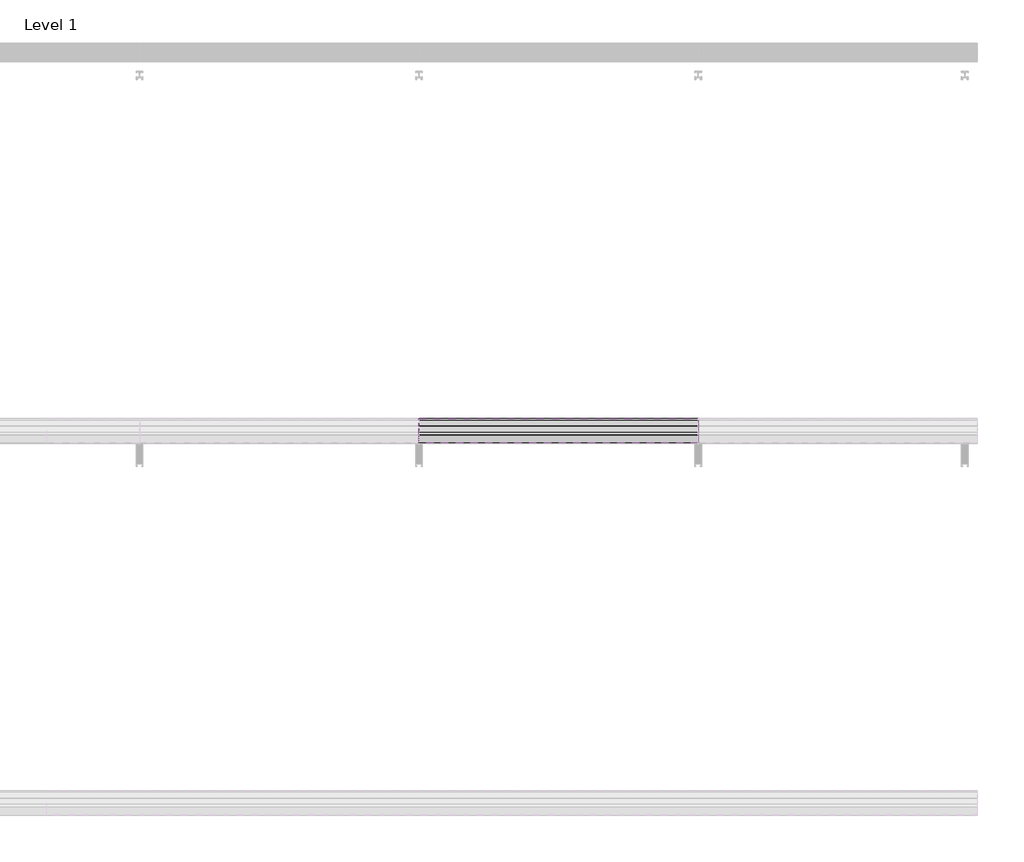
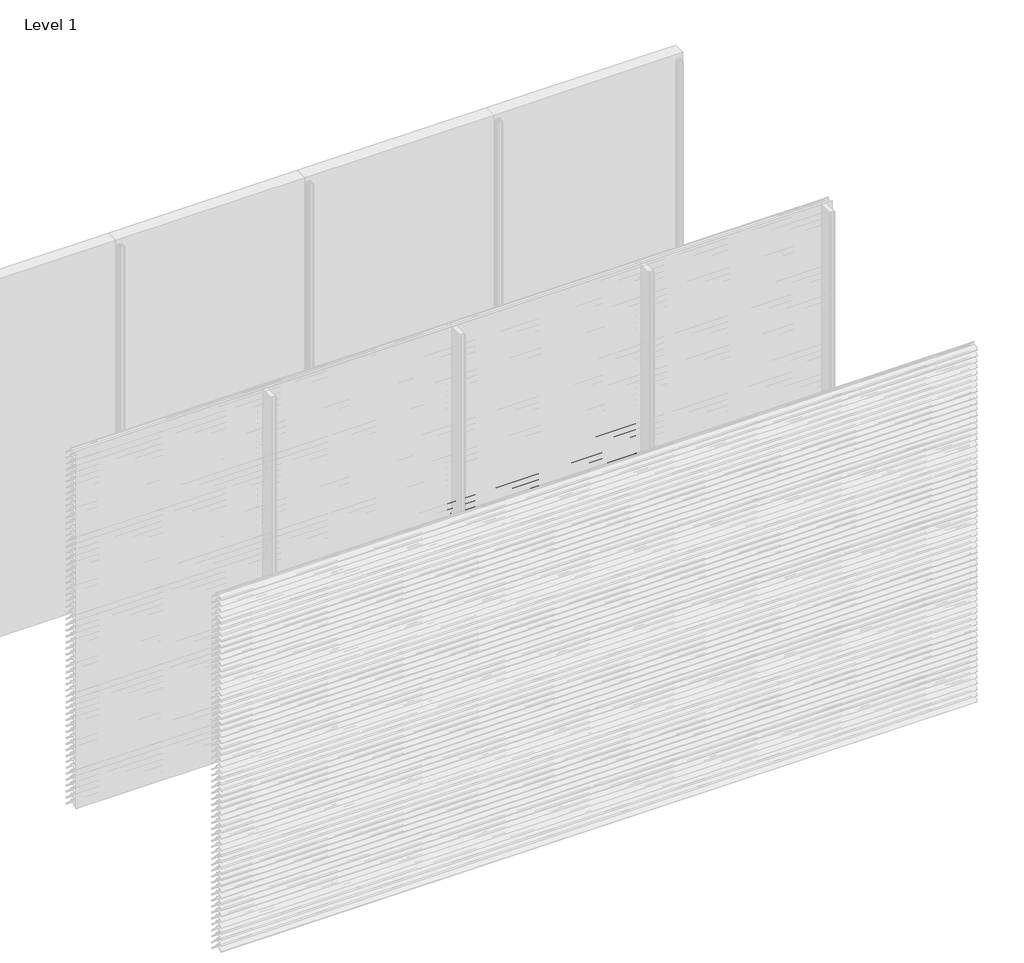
# One storey, part 32 of 173: 18 proxies.
"""IFC4 building model written with IfcOpenShell, lengths in millimetres."""

from ifc_helpers import new_model, si_unit, point, frame, frame_2d, origin, place, context, project, spatial, polyline, circle_curve, trimmed, segment, composite_curve, outline, extrude, element, save

model = new_model("IFC4")

# Units and contexts
model_context = context("Model", 3, world=origin())
ifc_project = project(units=[si_unit("LENGTHUNIT", "METRE", prefix="MILLI")], contexts=[model_context])

# Site, building, storey
site = spatial("IfcSite", under=ifc_project)
building = spatial("IfcBuilding", under=site)
storey = spatial("IfcBuildingStorey", under=building, Name="Level 1", Elevation=0.0)

# Proxies
placement = place(None, origin())
element("IfcBuildingElementProxy", 1, Name="Wall Sweeps", at=placement, inside=storey, context=model_context, shape_type="SweptSolid", body=[
    extrude(outline(composite_curve([segment(polyline([(-47998.0, 1609.1474905), (-47998.0, 1611.6227417)]), True, "CONTINUOUS"), segment(trimmed(circle_curve(frame_2d((-47951.2682172, 1566.2200208)), 65.1557103), [point((-47998.0, 1611.6227417))], [point((-47954.4014323, 1631.3003524))], False, "CARTESIAN"), True, "CONTINUOUS"), segment(polyline([(-47954.4014323, 1631.3003524), (-47934.8315836, 1631.3003524)]), True, "CONTINUOUS"), segment(trimmed(circle_curve(frame_2d((-47732.7329489, 1778.5533172)), 250.0545817), [point((-47934.8315836, 1631.3003524))], [point((-47941.4452143, 1640.8344583))], False, "CARTESIAN"), True, "CONTINUOUS"), segment(trimmed(circle_curve(frame_2d((-47953.2981792, 1635.1737835)), 13.1352966), [point((-47941.4452143, 1640.8344583))], [point((-47953.8171475, 1648.298824))], True, "CARTESIAN"), True, "CONTINUOUS"), segment(polyline([(-47953.8171475, 1648.298824), (-47953.8171475, 1650.0)]), True, "CONTINUOUS"), segment(trimmed(circle_curve(frame_2d((-47953.2981792, 1635.1737835)), 14.8352966), [point((-47953.8171475, 1650.0))], [point((-47939.9637661, 1641.6760487))], False, "CARTESIAN"), True, "CONTINUOUS"), segment(trimmed(circle_curve(frame_2d((-47732.7329489, 1778.5533172)), 248.3545817), [point((-47939.9637661, 1641.6760487))], [point((-47873.8787895, 1574.2059416))], True, "CARTESIAN"), True, "CONTINUOUS"), segment(trimmed(circle_curve(frame_2d((-47883.8147537, 1561.6649442)), 16.0), [point((-47873.8787895, 1574.2059416))], [point((-47867.8648347, 1560.4))], False, "CARTESIAN"), True, "CONTINUOUS"), segment(polyline([(-47867.8648347, 1560.4), (-47869.6712069, 1560.4)]), True, "CONTINUOUS"), segment(trimmed(circle_curve(frame_2d((-47883.8147537, 1561.6649442)), 14.2), [point((-47869.6712069, 1560.4))], [point((-47874.9518628, 1572.7594998))], True, "CARTESIAN"), True, "CONTINUOUS"), segment(trimmed(circle_curve(frame_2d((-47732.7329489, 1778.5533172)), 250.1545817), [point((-47874.9518628, 1572.7594998))], [point((-47933.7064024, 1629.6003524))], False, "CARTESIAN"), True, "CONTINUOUS"), segment(polyline([(-47933.7064024, 1629.6003524), (-47954.3602632, 1629.6003524)]), True, "CONTINUOUS"), segment(trimmed(circle_curve(frame_2d((-47951.2682172, 1566.2200208)), 63.4557103), [point((-47954.3602632, 1629.6003524))], [point((-47998.0, 1609.1474905))], True, "CARTESIAN"), True, "CONTINUOUS")], self_intersect=False)), frame((3000.0, 0.0, 0.0), z_axis=(1.0, 0.0, 0.0), x_axis=(0.0, 1.0, 0.0)), (0.0, 0.0, 1.0), 1500.0),
])
element("IfcBuildingElementProxy", 2, Name="Wall Sweeps", at=placement, inside=storey, context=model_context, shape_type="SweptSolid", body=[
    extrude(outline(composite_curve([segment(polyline([(-47998.0, 1559.1474905), (-47998.0, 1561.6227417)]), True, "CONTINUOUS"), segment(trimmed(circle_curve(frame_2d((-47951.2682172, 1516.2200208)), 65.1557103), [point((-47998.0, 1561.6227417))], [point((-47954.4014323, 1581.3003524))], False, "CARTESIAN"), True, "CONTINUOUS"), segment(polyline([(-47954.4014323, 1581.3003524), (-47934.8315836, 1581.3003524)]), True, "CONTINUOUS"), segment(trimmed(circle_curve(frame_2d((-47732.7329489, 1728.5533172)), 250.0545817), [point((-47934.8315836, 1581.3003524))], [point((-47941.4452143, 1590.8344583))], False, "CARTESIAN"), True, "CONTINUOUS"), segment(trimmed(circle_curve(frame_2d((-47953.2981792, 1585.1737835)), 13.1352966), [point((-47941.4452143, 1590.8344583))], [point((-47953.8171475, 1598.298824))], True, "CARTESIAN"), True, "CONTINUOUS"), segment(polyline([(-47953.8171475, 1598.298824), (-47953.8171475, 1600.0)]), True, "CONTINUOUS"), segment(trimmed(circle_curve(frame_2d((-47953.2981792, 1585.1737835)), 14.8352966), [point((-47953.8171475, 1600.0))], [point((-47939.9637661, 1591.6760487))], False, "CARTESIAN"), True, "CONTINUOUS"), segment(trimmed(circle_curve(frame_2d((-47732.7329489, 1728.5533172)), 248.3545817), [point((-47939.9637661, 1591.6760487))], [point((-47873.8787895, 1524.2059416))], True, "CARTESIAN"), True, "CONTINUOUS"), segment(trimmed(circle_curve(frame_2d((-47883.8147537, 1511.6649442)), 16.0), [point((-47873.8787895, 1524.2059416))], [point((-47867.8648347, 1510.4))], False, "CARTESIAN"), True, "CONTINUOUS"), segment(polyline([(-47867.8648347, 1510.4), (-47869.6712069, 1510.4)]), True, "CONTINUOUS"), segment(trimmed(circle_curve(frame_2d((-47883.8147537, 1511.6649442)), 14.2), [point((-47869.6712069, 1510.4))], [point((-47874.9518628, 1522.7594998))], True, "CARTESIAN"), True, "CONTINUOUS"), segment(trimmed(circle_curve(frame_2d((-47732.7329489, 1728.5533172)), 250.1545817), [point((-47874.9518628, 1522.7594998))], [point((-47933.7064024, 1579.6003524))], False, "CARTESIAN"), True, "CONTINUOUS"), segment(polyline([(-47933.7064024, 1579.6003524), (-47954.3602632, 1579.6003524)]), True, "CONTINUOUS"), segment(trimmed(circle_curve(frame_2d((-47951.2682172, 1516.2200208)), 63.4557103), [point((-47954.3602632, 1579.6003524))], [point((-47998.0, 1559.1474905))], True, "CARTESIAN"), True, "CONTINUOUS")], self_intersect=False)), frame((3000.0, 0.0, 0.0), z_axis=(1.0, 0.0, 0.0), x_axis=(0.0, 1.0, 0.0)), (0.0, 0.0, 1.0), 1500.0),
])
element("IfcBuildingElementProxy", 3, Name="Wall Sweeps", at=placement, inside=storey, context=model_context, shape_type="SweptSolid", body=[
    extrude(outline(composite_curve([segment(polyline([(-47998.0, 1509.1474905), (-47998.0, 1511.6227417)]), True, "CONTINUOUS"), segment(trimmed(circle_curve(frame_2d((-47951.2682172, 1466.2200208)), 65.1557103), [point((-47998.0, 1511.6227417))], [point((-47954.4014323, 1531.3003524))], False, "CARTESIAN"), True, "CONTINUOUS"), segment(polyline([(-47954.4014323, 1531.3003524), (-47934.8315836, 1531.3003524)]), True, "CONTINUOUS"), segment(trimmed(circle_curve(frame_2d((-47732.7329489, 1678.5533172)), 250.0545817), [point((-47934.8315836, 1531.3003524))], [point((-47941.4452143, 1540.8344583))], False, "CARTESIAN"), True, "CONTINUOUS"), segment(trimmed(circle_curve(frame_2d((-47953.2981792, 1535.1737835)), 13.1352966), [point((-47941.4452143, 1540.8344583))], [point((-47953.8171475, 1548.298824))], True, "CARTESIAN"), True, "CONTINUOUS"), segment(polyline([(-47953.8171475, 1548.298824), (-47953.8171475, 1550.0)]), True, "CONTINUOUS"), segment(trimmed(circle_curve(frame_2d((-47953.2981792, 1535.1737835)), 14.8352966), [point((-47953.8171475, 1550.0))], [point((-47939.9637661, 1541.6760487))], False, "CARTESIAN"), True, "CONTINUOUS"), segment(trimmed(circle_curve(frame_2d((-47732.7329489, 1678.5533172)), 248.3545817), [point((-47939.9637661, 1541.6760487))], [point((-47873.8787895, 1474.2059416))], True, "CARTESIAN"), True, "CONTINUOUS"), segment(trimmed(circle_curve(frame_2d((-47883.8147537, 1461.6649442)), 16.0), [point((-47873.8787895, 1474.2059416))], [point((-47867.8648347, 1460.4))], False, "CARTESIAN"), True, "CONTINUOUS"), segment(polyline([(-47867.8648347, 1460.4), (-47869.6712069, 1460.4)]), True, "CONTINUOUS"), segment(trimmed(circle_curve(frame_2d((-47883.8147537, 1461.6649442)), 14.2), [point((-47869.6712069, 1460.4))], [point((-47874.9518628, 1472.7594998))], True, "CARTESIAN"), True, "CONTINUOUS"), segment(trimmed(circle_curve(frame_2d((-47732.7329489, 1678.5533172)), 250.1545817), [point((-47874.9518628, 1472.7594998))], [point((-47933.7064024, 1529.6003524))], False, "CARTESIAN"), True, "CONTINUOUS"), segment(polyline([(-47933.7064024, 1529.6003524), (-47954.3602632, 1529.6003524)]), True, "CONTINUOUS"), segment(trimmed(circle_curve(frame_2d((-47951.2682172, 1466.2200208)), 63.4557103), [point((-47954.3602632, 1529.6003524))], [point((-47998.0, 1509.1474905))], True, "CARTESIAN"), True, "CONTINUOUS")], self_intersect=False)), frame((3000.0, 0.0, 0.0), z_axis=(1.0, 0.0, 0.0), x_axis=(0.0, 1.0, 0.0)), (0.0, 0.0, 1.0), 1500.0),
])
element("IfcBuildingElementProxy", 4, Name="Wall Sweeps", at=placement, inside=storey, context=model_context, shape_type="SweptSolid", body=[
    extrude(outline(composite_curve([segment(polyline([(-47998.0, 1459.1474905), (-47998.0, 1461.6227417)]), True, "CONTINUOUS"), segment(trimmed(circle_curve(frame_2d((-47951.2682172, 1416.2200208)), 65.1557103), [point((-47998.0, 1461.6227417))], [point((-47954.4014323, 1481.3003524))], False, "CARTESIAN"), True, "CONTINUOUS"), segment(polyline([(-47954.4014323, 1481.3003524), (-47934.8315836, 1481.3003524)]), True, "CONTINUOUS"), segment(trimmed(circle_curve(frame_2d((-47732.7329489, 1628.5533172)), 250.0545817), [point((-47934.8315836, 1481.3003524))], [point((-47941.4452143, 1490.8344583))], False, "CARTESIAN"), True, "CONTINUOUS"), segment(trimmed(circle_curve(frame_2d((-47953.2981792, 1485.1737835)), 13.1352966), [point((-47941.4452143, 1490.8344583))], [point((-47953.8171475, 1498.298824))], True, "CARTESIAN"), True, "CONTINUOUS"), segment(polyline([(-47953.8171475, 1498.298824), (-47953.8171475, 1500.0)]), True, "CONTINUOUS"), segment(trimmed(circle_curve(frame_2d((-47953.2981792, 1485.1737835)), 14.8352966), [point((-47953.8171475, 1500.0))], [point((-47939.9637661, 1491.6760487))], False, "CARTESIAN"), True, "CONTINUOUS"), segment(trimmed(circle_curve(frame_2d((-47732.7329489, 1628.5533172)), 248.3545817), [point((-47939.9637661, 1491.6760487))], [point((-47873.8787895, 1424.2059416))], True, "CARTESIAN"), True, "CONTINUOUS"), segment(trimmed(circle_curve(frame_2d((-47883.8147537, 1411.6649442)), 16.0), [point((-47873.8787895, 1424.2059416))], [point((-47867.8648347, 1410.4))], False, "CARTESIAN"), True, "CONTINUOUS"), segment(polyline([(-47867.8648347, 1410.4), (-47869.6712069, 1410.4)]), True, "CONTINUOUS"), segment(trimmed(circle_curve(frame_2d((-47883.8147537, 1411.6649442)), 14.2), [point((-47869.6712069, 1410.4))], [point((-47874.9518628, 1422.7594998))], True, "CARTESIAN"), True, "CONTINUOUS"), segment(trimmed(circle_curve(frame_2d((-47732.7329489, 1628.5533172)), 250.1545817), [point((-47874.9518628, 1422.7594998))], [point((-47933.7064024, 1479.6003524))], False, "CARTESIAN"), True, "CONTINUOUS"), segment(polyline([(-47933.7064024, 1479.6003524), (-47954.3602632, 1479.6003524)]), True, "CONTINUOUS"), segment(trimmed(circle_curve(frame_2d((-47951.2682172, 1416.2200208)), 63.4557103), [point((-47954.3602632, 1479.6003524))], [point((-47998.0, 1459.1474905))], True, "CARTESIAN"), True, "CONTINUOUS")], self_intersect=False)), frame((3000.0, 0.0, 0.0), z_axis=(1.0, 0.0, 0.0), x_axis=(0.0, 1.0, 0.0)), (0.0, 0.0, 1.0), 1500.0),
])
element("IfcBuildingElementProxy", 5, Name="Wall Sweeps", at=placement, inside=storey, context=model_context, shape_type="SweptSolid", body=[
    extrude(outline(composite_curve([segment(polyline([(-47998.0, 1409.1474905), (-47998.0, 1411.6227417)]), True, "CONTINUOUS"), segment(trimmed(circle_curve(frame_2d((-47951.2682172, 1366.2200208)), 65.1557103), [point((-47998.0, 1411.6227417))], [point((-47954.4014323, 1431.3003524))], False, "CARTESIAN"), True, "CONTINUOUS"), segment(polyline([(-47954.4014323, 1431.3003524), (-47934.8315836, 1431.3003524)]), True, "CONTINUOUS"), segment(trimmed(circle_curve(frame_2d((-47732.7329489, 1578.5533172)), 250.0545817), [point((-47934.8315836, 1431.3003524))], [point((-47941.4452143, 1440.8344583))], False, "CARTESIAN"), True, "CONTINUOUS"), segment(trimmed(circle_curve(frame_2d((-47953.2981792, 1435.1737835)), 13.1352966), [point((-47941.4452143, 1440.8344583))], [point((-47953.8171475, 1448.298824))], True, "CARTESIAN"), True, "CONTINUOUS"), segment(polyline([(-47953.8171475, 1448.298824), (-47953.8171475, 1450.0)]), True, "CONTINUOUS"), segment(trimmed(circle_curve(frame_2d((-47953.2981792, 1435.1737835)), 14.8352966), [point((-47953.8171475, 1450.0))], [point((-47939.9637661, 1441.6760487))], False, "CARTESIAN"), True, "CONTINUOUS"), segment(trimmed(circle_curve(frame_2d((-47732.7329489, 1578.5533172)), 248.3545817), [point((-47939.9637661, 1441.6760487))], [point((-47873.8787895, 1374.2059416))], True, "CARTESIAN"), True, "CONTINUOUS"), segment(trimmed(circle_curve(frame_2d((-47883.8147537, 1361.6649442)), 16.0), [point((-47873.8787895, 1374.2059416))], [point((-47867.8648347, 1360.4))], False, "CARTESIAN"), True, "CONTINUOUS"), segment(polyline([(-47867.8648347, 1360.4), (-47869.6712069, 1360.4)]), True, "CONTINUOUS"), segment(trimmed(circle_curve(frame_2d((-47883.8147537, 1361.6649442)), 14.2), [point((-47869.6712069, 1360.4))], [point((-47874.9518628, 1372.7594998))], True, "CARTESIAN"), True, "CONTINUOUS"), segment(trimmed(circle_curve(frame_2d((-47732.7329489, 1578.5533172)), 250.1545817), [point((-47874.9518628, 1372.7594998))], [point((-47933.7064024, 1429.6003524))], False, "CARTESIAN"), True, "CONTINUOUS"), segment(polyline([(-47933.7064024, 1429.6003524), (-47954.3602632, 1429.6003524)]), True, "CONTINUOUS"), segment(trimmed(circle_curve(frame_2d((-47951.2682172, 1366.2200208)), 63.4557103), [point((-47954.3602632, 1429.6003524))], [point((-47998.0, 1409.1474905))], True, "CARTESIAN"), True, "CONTINUOUS")], self_intersect=False)), frame((3000.0, 0.0, 0.0), z_axis=(1.0, 0.0, 0.0), x_axis=(0.0, 1.0, 0.0)), (0.0, 0.0, 1.0), 1500.0),
])
element("IfcBuildingElementProxy", 6, Name="Wall Sweeps", at=placement, inside=storey, context=model_context, shape_type="SweptSolid", body=[
    extrude(outline(composite_curve([segment(polyline([(-47998.0, 1359.1474905), (-47998.0, 1361.6227417)]), True, "CONTINUOUS"), segment(trimmed(circle_curve(frame_2d((-47951.2682172, 1316.2200208)), 65.1557103), [point((-47998.0, 1361.6227417))], [point((-47954.4014323, 1381.3003524))], False, "CARTESIAN"), True, "CONTINUOUS"), segment(polyline([(-47954.4014323, 1381.3003524), (-47934.8315836, 1381.3003524)]), True, "CONTINUOUS"), segment(trimmed(circle_curve(frame_2d((-47732.7329489, 1528.5533172)), 250.0545817), [point((-47934.8315836, 1381.3003524))], [point((-47941.4452143, 1390.8344583))], False, "CARTESIAN"), True, "CONTINUOUS"), segment(trimmed(circle_curve(frame_2d((-47953.2981792, 1385.1737835)), 13.1352966), [point((-47941.4452143, 1390.8344583))], [point((-47953.8171475, 1398.298824))], True, "CARTESIAN"), True, "CONTINUOUS"), segment(polyline([(-47953.8171475, 1398.298824), (-47953.8171475, 1400.0)]), True, "CONTINUOUS"), segment(trimmed(circle_curve(frame_2d((-47953.2981792, 1385.1737835)), 14.8352966), [point((-47953.8171475, 1400.0))], [point((-47939.9637661, 1391.6760487))], False, "CARTESIAN"), True, "CONTINUOUS"), segment(trimmed(circle_curve(frame_2d((-47732.7329489, 1528.5533172)), 248.3545817), [point((-47939.9637661, 1391.6760487))], [point((-47873.8787895, 1324.2059416))], True, "CARTESIAN"), True, "CONTINUOUS"), segment(trimmed(circle_curve(frame_2d((-47883.8147537, 1311.6649442)), 16.0), [point((-47873.8787895, 1324.2059416))], [point((-47867.8648347, 1310.4))], False, "CARTESIAN"), True, "CONTINUOUS"), segment(polyline([(-47867.8648347, 1310.4), (-47869.6712069, 1310.4)]), True, "CONTINUOUS"), segment(trimmed(circle_curve(frame_2d((-47883.8147537, 1311.6649442)), 14.2), [point((-47869.6712069, 1310.4))], [point((-47874.9518628, 1322.7594998))], True, "CARTESIAN"), True, "CONTINUOUS"), segment(trimmed(circle_curve(frame_2d((-47732.7329489, 1528.5533172)), 250.1545817), [point((-47874.9518628, 1322.7594998))], [point((-47933.7064024, 1379.6003524))], False, "CARTESIAN"), True, "CONTINUOUS"), segment(polyline([(-47933.7064024, 1379.6003524), (-47954.3602632, 1379.6003524)]), True, "CONTINUOUS"), segment(trimmed(circle_curve(frame_2d((-47951.2682172, 1316.2200208)), 63.4557103), [point((-47954.3602632, 1379.6003524))], [point((-47998.0, 1359.1474905))], True, "CARTESIAN"), True, "CONTINUOUS")], self_intersect=False)), frame((3000.0, 0.0, 0.0), z_axis=(1.0, 0.0, 0.0), x_axis=(0.0, 1.0, 0.0)), (0.0, 0.0, 1.0), 1500.0),
])
element("IfcBuildingElementProxy", 7, Name="Wall Sweeps", at=placement, inside=storey, context=model_context, shape_type="SweptSolid", body=[
    extrude(outline(composite_curve([segment(polyline([(-47998.0, 1309.1474905), (-47998.0, 1311.6227417)]), True, "CONTINUOUS"), segment(trimmed(circle_curve(frame_2d((-47951.2682172, 1266.2200208)), 65.1557103), [point((-47998.0, 1311.6227417))], [point((-47954.4014323, 1331.3003524))], False, "CARTESIAN"), True, "CONTINUOUS"), segment(polyline([(-47954.4014323, 1331.3003524), (-47934.8315836, 1331.3003524)]), True, "CONTINUOUS"), segment(trimmed(circle_curve(frame_2d((-47732.7329489, 1478.5533172)), 250.0545817), [point((-47934.8315836, 1331.3003524))], [point((-47941.4452143, 1340.8344583))], False, "CARTESIAN"), True, "CONTINUOUS"), segment(trimmed(circle_curve(frame_2d((-47953.2981792, 1335.1737835)), 13.1352966), [point((-47941.4452143, 1340.8344583))], [point((-47953.8171475, 1348.298824))], True, "CARTESIAN"), True, "CONTINUOUS"), segment(polyline([(-47953.8171475, 1348.298824), (-47953.8171475, 1350.0)]), True, "CONTINUOUS"), segment(trimmed(circle_curve(frame_2d((-47953.2981792, 1335.1737835)), 14.8352966), [point((-47953.8171475, 1350.0))], [point((-47939.9637661, 1341.6760487))], False, "CARTESIAN"), True, "CONTINUOUS"), segment(trimmed(circle_curve(frame_2d((-47732.7329489, 1478.5533172)), 248.3545817), [point((-47939.9637661, 1341.6760487))], [point((-47873.8787895, 1274.2059416))], True, "CARTESIAN"), True, "CONTINUOUS"), segment(trimmed(circle_curve(frame_2d((-47883.8147537, 1261.6649442)), 16.0), [point((-47873.8787895, 1274.2059416))], [point((-47867.8648347, 1260.4))], False, "CARTESIAN"), True, "CONTINUOUS"), segment(polyline([(-47867.8648347, 1260.4), (-47869.6712069, 1260.4)]), True, "CONTINUOUS"), segment(trimmed(circle_curve(frame_2d((-47883.8147537, 1261.6649442)), 14.2), [point((-47869.6712069, 1260.4))], [point((-47874.9518628, 1272.7594998))], True, "CARTESIAN"), True, "CONTINUOUS"), segment(trimmed(circle_curve(frame_2d((-47732.7329489, 1478.5533172)), 250.1545817), [point((-47874.9518628, 1272.7594998))], [point((-47933.7064024, 1329.6003524))], False, "CARTESIAN"), True, "CONTINUOUS"), segment(polyline([(-47933.7064024, 1329.6003524), (-47954.3602632, 1329.6003524)]), True, "CONTINUOUS"), segment(trimmed(circle_curve(frame_2d((-47951.2682172, 1266.2200208)), 63.4557103), [point((-47954.3602632, 1329.6003524))], [point((-47998.0, 1309.1474905))], True, "CARTESIAN"), True, "CONTINUOUS")], self_intersect=False)), frame((3000.0, 0.0, 0.0), z_axis=(1.0, 0.0, 0.0), x_axis=(0.0, 1.0, 0.0)), (0.0, 0.0, 1.0), 1500.0),
])
element("IfcBuildingElementProxy", 8, Name="Wall Sweeps", at=placement, inside=storey, context=model_context, shape_type="SweptSolid", body=[
    extrude(outline(composite_curve([segment(polyline([(-47998.0, 1259.1474905), (-47998.0, 1261.6227417)]), True, "CONTINUOUS"), segment(trimmed(circle_curve(frame_2d((-47951.2682172, 1216.2200208)), 65.1557103), [point((-47998.0, 1261.6227417))], [point((-47954.4014323, 1281.3003524))], False, "CARTESIAN"), True, "CONTINUOUS"), segment(polyline([(-47954.4014323, 1281.3003524), (-47934.8315836, 1281.3003524)]), True, "CONTINUOUS"), segment(trimmed(circle_curve(frame_2d((-47732.7329489, 1428.5533172)), 250.0545817), [point((-47934.8315836, 1281.3003524))], [point((-47941.4452143, 1290.8344583))], False, "CARTESIAN"), True, "CONTINUOUS"), segment(trimmed(circle_curve(frame_2d((-47953.2981792, 1285.1737835)), 13.1352966), [point((-47941.4452143, 1290.8344583))], [point((-47953.8171475, 1298.298824))], True, "CARTESIAN"), True, "CONTINUOUS"), segment(polyline([(-47953.8171475, 1298.298824), (-47953.8171475, 1300.0)]), True, "CONTINUOUS"), segment(trimmed(circle_curve(frame_2d((-47953.2981792, 1285.1737835)), 14.8352966), [point((-47953.8171475, 1300.0))], [point((-47939.9637661, 1291.6760487))], False, "CARTESIAN"), True, "CONTINUOUS"), segment(trimmed(circle_curve(frame_2d((-47732.7329489, 1428.5533172)), 248.3545817), [point((-47939.9637661, 1291.6760487))], [point((-47873.8787895, 1224.2059416))], True, "CARTESIAN"), True, "CONTINUOUS"), segment(trimmed(circle_curve(frame_2d((-47883.8147537, 1211.6649442)), 16.0), [point((-47873.8787895, 1224.2059416))], [point((-47867.8648347, 1210.4))], False, "CARTESIAN"), True, "CONTINUOUS"), segment(polyline([(-47867.8648347, 1210.4), (-47869.6712069, 1210.4)]), True, "CONTINUOUS"), segment(trimmed(circle_curve(frame_2d((-47883.8147537, 1211.6649442)), 14.2), [point((-47869.6712069, 1210.4))], [point((-47874.9518628, 1222.7594998))], True, "CARTESIAN"), True, "CONTINUOUS"), segment(trimmed(circle_curve(frame_2d((-47732.7329489, 1428.5533172)), 250.1545817), [point((-47874.9518628, 1222.7594998))], [point((-47933.7064024, 1279.6003524))], False, "CARTESIAN"), True, "CONTINUOUS"), segment(polyline([(-47933.7064024, 1279.6003524), (-47954.3602632, 1279.6003524)]), True, "CONTINUOUS"), segment(trimmed(circle_curve(frame_2d((-47951.2682172, 1216.2200208)), 63.4557103), [point((-47954.3602632, 1279.6003524))], [point((-47998.0, 1259.1474905))], True, "CARTESIAN"), True, "CONTINUOUS")], self_intersect=False)), frame((3000.0, 0.0, 0.0), z_axis=(1.0, 0.0, 0.0), x_axis=(0.0, 1.0, 0.0)), (0.0, 0.0, 1.0), 1500.0),
])
element("IfcBuildingElementProxy", 9, Name="Wall Sweeps", at=placement, inside=storey, context=model_context, shape_type="SweptSolid", body=[
    extrude(outline(composite_curve([segment(polyline([(-47998.0, 1209.1474905), (-47998.0, 1211.6227417)]), True, "CONTINUOUS"), segment(trimmed(circle_curve(frame_2d((-47951.2682172, 1166.2200208)), 65.1557103), [point((-47998.0, 1211.6227417))], [point((-47954.4014323, 1231.3003524))], False, "CARTESIAN"), True, "CONTINUOUS"), segment(polyline([(-47954.4014323, 1231.3003524), (-47934.8315836, 1231.3003524)]), True, "CONTINUOUS"), segment(trimmed(circle_curve(frame_2d((-47732.7329489, 1378.5533172)), 250.0545817), [point((-47934.8315836, 1231.3003524))], [point((-47941.4452143, 1240.8344583))], False, "CARTESIAN"), True, "CONTINUOUS"), segment(trimmed(circle_curve(frame_2d((-47953.2981792, 1235.1737835)), 13.1352966), [point((-47941.4452143, 1240.8344583))], [point((-47953.8171475, 1248.298824))], True, "CARTESIAN"), True, "CONTINUOUS"), segment(polyline([(-47953.8171475, 1248.298824), (-47953.8171475, 1250.0)]), True, "CONTINUOUS"), segment(trimmed(circle_curve(frame_2d((-47953.2981792, 1235.1737835)), 14.8352966), [point((-47953.8171475, 1250.0))], [point((-47939.9637661, 1241.6760487))], False, "CARTESIAN"), True, "CONTINUOUS"), segment(trimmed(circle_curve(frame_2d((-47732.7329489, 1378.5533172)), 248.3545817), [point((-47939.9637661, 1241.6760487))], [point((-47873.8787895, 1174.2059416))], True, "CARTESIAN"), True, "CONTINUOUS"), segment(trimmed(circle_curve(frame_2d((-47883.8147537, 1161.6649442)), 16.0), [point((-47873.8787895, 1174.2059416))], [point((-47867.8648347, 1160.4))], False, "CARTESIAN"), True, "CONTINUOUS"), segment(polyline([(-47867.8648347, 1160.4), (-47869.6712069, 1160.4)]), True, "CONTINUOUS"), segment(trimmed(circle_curve(frame_2d((-47883.8147537, 1161.6649442)), 14.2), [point((-47869.6712069, 1160.4))], [point((-47874.9518628, 1172.7594998))], True, "CARTESIAN"), True, "CONTINUOUS"), segment(trimmed(circle_curve(frame_2d((-47732.7329489, 1378.5533172)), 250.1545817), [point((-47874.9518628, 1172.7594998))], [point((-47933.7064024, 1229.6003524))], False, "CARTESIAN"), True, "CONTINUOUS"), segment(polyline([(-47933.7064024, 1229.6003524), (-47954.3602632, 1229.6003524)]), True, "CONTINUOUS"), segment(trimmed(circle_curve(frame_2d((-47951.2682172, 1166.2200208)), 63.4557103), [point((-47954.3602632, 1229.6003524))], [point((-47998.0, 1209.1474905))], True, "CARTESIAN"), True, "CONTINUOUS")], self_intersect=False)), frame((3000.0, 0.0, 0.0), z_axis=(1.0, 0.0, 0.0), x_axis=(0.0, 1.0, 0.0)), (0.0, 0.0, 1.0), 1500.0),
])
element("IfcBuildingElementProxy", 10, Name="Wall Sweeps", at=placement, inside=storey, context=model_context, shape_type="SweptSolid", body=[
    extrude(outline(composite_curve([segment(polyline([(-47998.0, 1159.1474905), (-47998.0, 1161.6227417)]), True, "CONTINUOUS"), segment(trimmed(circle_curve(frame_2d((-47951.2682172, 1116.2200208)), 65.1557103), [point((-47998.0, 1161.6227417))], [point((-47954.4014323, 1181.3003524))], False, "CARTESIAN"), True, "CONTINUOUS"), segment(polyline([(-47954.4014323, 1181.3003524), (-47934.8315836, 1181.3003524)]), True, "CONTINUOUS"), segment(trimmed(circle_curve(frame_2d((-47732.7329489, 1328.5533172)), 250.0545817), [point((-47934.8315836, 1181.3003524))], [point((-47941.4452143, 1190.8344583))], False, "CARTESIAN"), True, "CONTINUOUS"), segment(trimmed(circle_curve(frame_2d((-47953.2981792, 1185.1737835)), 13.1352966), [point((-47941.4452143, 1190.8344583))], [point((-47953.8171475, 1198.298824))], True, "CARTESIAN"), True, "CONTINUOUS"), segment(polyline([(-47953.8171475, 1198.298824), (-47953.8171475, 1200.0)]), True, "CONTINUOUS"), segment(trimmed(circle_curve(frame_2d((-47953.2981792, 1185.1737835)), 14.8352966), [point((-47953.8171475, 1200.0))], [point((-47939.9637661, 1191.6760487))], False, "CARTESIAN"), True, "CONTINUOUS"), segment(trimmed(circle_curve(frame_2d((-47732.7329489, 1328.5533172)), 248.3545817), [point((-47939.9637661, 1191.6760487))], [point((-47873.8787895, 1124.2059416))], True, "CARTESIAN"), True, "CONTINUOUS"), segment(trimmed(circle_curve(frame_2d((-47883.8147537, 1111.6649442)), 16.0), [point((-47873.8787895, 1124.2059416))], [point((-47867.8648347, 1110.4))], False, "CARTESIAN"), True, "CONTINUOUS"), segment(polyline([(-47867.8648347, 1110.4), (-47869.6712069, 1110.4)]), True, "CONTINUOUS"), segment(trimmed(circle_curve(frame_2d((-47883.8147537, 1111.6649442)), 14.2), [point((-47869.6712069, 1110.4))], [point((-47874.9518628, 1122.7594998))], True, "CARTESIAN"), True, "CONTINUOUS"), segment(trimmed(circle_curve(frame_2d((-47732.7329489, 1328.5533172)), 250.1545817), [point((-47874.9518628, 1122.7594998))], [point((-47933.7064024, 1179.6003524))], False, "CARTESIAN"), True, "CONTINUOUS"), segment(polyline([(-47933.7064024, 1179.6003524), (-47954.3602632, 1179.6003524)]), True, "CONTINUOUS"), segment(trimmed(circle_curve(frame_2d((-47951.2682172, 1116.2200208)), 63.4557103), [point((-47954.3602632, 1179.6003524))], [point((-47998.0, 1159.1474905))], True, "CARTESIAN"), True, "CONTINUOUS")], self_intersect=False)), frame((3000.0, 0.0, 0.0), z_axis=(1.0, 0.0, 0.0), x_axis=(0.0, 1.0, 0.0)), (0.0, 0.0, 1.0), 1500.0),
])
element("IfcBuildingElementProxy", 11, Name="Wall Sweeps", at=placement, inside=storey, context=model_context, shape_type="SweptSolid", body=[
    extrude(outline(composite_curve([segment(polyline([(-47998.0, 1109.1474905), (-47998.0, 1111.6227417)]), True, "CONTINUOUS"), segment(trimmed(circle_curve(frame_2d((-47951.2682172, 1066.2200208)), 65.1557103), [point((-47998.0, 1111.6227417))], [point((-47954.4014323, 1131.3003524))], False, "CARTESIAN"), True, "CONTINUOUS"), segment(polyline([(-47954.4014323, 1131.3003524), (-47934.8315836, 1131.3003524)]), True, "CONTINUOUS"), segment(trimmed(circle_curve(frame_2d((-47732.7329489, 1278.5533172)), 250.0545817), [point((-47934.8315836, 1131.3003524))], [point((-47941.4452143, 1140.8344583))], False, "CARTESIAN"), True, "CONTINUOUS"), segment(trimmed(circle_curve(frame_2d((-47953.2981792, 1135.1737835)), 13.1352966), [point((-47941.4452143, 1140.8344583))], [point((-47953.8171475, 1148.298824))], True, "CARTESIAN"), True, "CONTINUOUS"), segment(polyline([(-47953.8171475, 1148.298824), (-47953.8171475, 1150.0)]), True, "CONTINUOUS"), segment(trimmed(circle_curve(frame_2d((-47953.2981792, 1135.1737835)), 14.8352966), [point((-47953.8171475, 1150.0))], [point((-47939.9637661, 1141.6760487))], False, "CARTESIAN"), True, "CONTINUOUS"), segment(trimmed(circle_curve(frame_2d((-47732.7329489, 1278.5533172)), 248.3545817), [point((-47939.9637661, 1141.6760487))], [point((-47873.8787895, 1074.2059416))], True, "CARTESIAN"), True, "CONTINUOUS"), segment(trimmed(circle_curve(frame_2d((-47883.8147537, 1061.6649442)), 16.0), [point((-47873.8787895, 1074.2059416))], [point((-47867.8648347, 1060.4))], False, "CARTESIAN"), True, "CONTINUOUS"), segment(polyline([(-47867.8648347, 1060.4), (-47869.6712069, 1060.4)]), True, "CONTINUOUS"), segment(trimmed(circle_curve(frame_2d((-47883.8147537, 1061.6649442)), 14.2), [point((-47869.6712069, 1060.4))], [point((-47874.9518628, 1072.7594998))], True, "CARTESIAN"), True, "CONTINUOUS"), segment(trimmed(circle_curve(frame_2d((-47732.7329489, 1278.5533172)), 250.1545817), [point((-47874.9518628, 1072.7594998))], [point((-47933.7064024, 1129.6003524))], False, "CARTESIAN"), True, "CONTINUOUS"), segment(polyline([(-47933.7064024, 1129.6003524), (-47954.3602632, 1129.6003524)]), True, "CONTINUOUS"), segment(trimmed(circle_curve(frame_2d((-47951.2682172, 1066.2200208)), 63.4557103), [point((-47954.3602632, 1129.6003524))], [point((-47998.0, 1109.1474905))], True, "CARTESIAN"), True, "CONTINUOUS")], self_intersect=False)), frame((3000.0, 0.0, 0.0), z_axis=(1.0, 0.0, 0.0), x_axis=(0.0, 1.0, 0.0)), (0.0, 0.0, 1.0), 1500.0),
])
element("IfcBuildingElementProxy", 12, Name="Wall Sweeps", at=placement, inside=storey, context=model_context, shape_type="SweptSolid", body=[
    extrude(outline(composite_curve([segment(polyline([(-47998.0, 1059.1474905), (-47998.0, 1061.6227417)]), True, "CONTINUOUS"), segment(trimmed(circle_curve(frame_2d((-47951.2682172, 1016.2200208)), 65.1557103), [point((-47998.0, 1061.6227417))], [point((-47954.4014323, 1081.3003524))], False, "CARTESIAN"), True, "CONTINUOUS"), segment(polyline([(-47954.4014323, 1081.3003524), (-47934.8315836, 1081.3003524)]), True, "CONTINUOUS"), segment(trimmed(circle_curve(frame_2d((-47732.7329489, 1228.5533172)), 250.0545817), [point((-47934.8315836, 1081.3003524))], [point((-47941.4452143, 1090.8344583))], False, "CARTESIAN"), True, "CONTINUOUS"), segment(trimmed(circle_curve(frame_2d((-47953.2981792, 1085.1737835)), 13.1352966), [point((-47941.4452143, 1090.8344583))], [point((-47953.8171475, 1098.298824))], True, "CARTESIAN"), True, "CONTINUOUS"), segment(polyline([(-47953.8171475, 1098.298824), (-47953.8171475, 1100.0)]), True, "CONTINUOUS"), segment(trimmed(circle_curve(frame_2d((-47953.2981792, 1085.1737835)), 14.8352966), [point((-47953.8171475, 1100.0))], [point((-47939.9637661, 1091.6760487))], False, "CARTESIAN"), True, "CONTINUOUS"), segment(trimmed(circle_curve(frame_2d((-47732.7329489, 1228.5533172)), 248.3545817), [point((-47939.9637661, 1091.6760487))], [point((-47873.8787895, 1024.2059416))], True, "CARTESIAN"), True, "CONTINUOUS"), segment(trimmed(circle_curve(frame_2d((-47883.8147537, 1011.6649442)), 16.0), [point((-47873.8787895, 1024.2059416))], [point((-47867.8648347, 1010.4))], False, "CARTESIAN"), True, "CONTINUOUS"), segment(polyline([(-47867.8648347, 1010.4), (-47869.6712069, 1010.4)]), True, "CONTINUOUS"), segment(trimmed(circle_curve(frame_2d((-47883.8147537, 1011.6649442)), 14.2), [point((-47869.6712069, 1010.4))], [point((-47874.9518628, 1022.7594998))], True, "CARTESIAN"), True, "CONTINUOUS"), segment(trimmed(circle_curve(frame_2d((-47732.7329489, 1228.5533172)), 250.1545817), [point((-47874.9518628, 1022.7594998))], [point((-47933.7064024, 1079.6003524))], False, "CARTESIAN"), True, "CONTINUOUS"), segment(polyline([(-47933.7064024, 1079.6003524), (-47954.3602632, 1079.6003524)]), True, "CONTINUOUS"), segment(trimmed(circle_curve(frame_2d((-47951.2682172, 1016.2200208)), 63.4557103), [point((-47954.3602632, 1079.6003524))], [point((-47998.0, 1059.1474905))], True, "CARTESIAN"), True, "CONTINUOUS")], self_intersect=False)), frame((3000.0, 0.0, 0.0), z_axis=(1.0, 0.0, 0.0), x_axis=(0.0, 1.0, 0.0)), (0.0, 0.0, 1.0), 1500.0),
])
element("IfcBuildingElementProxy", 13, Name="Wall Sweeps", at=placement, inside=storey, context=model_context, shape_type="SweptSolid", body=[
    extrude(outline(composite_curve([segment(polyline([(-47998.0, 1009.1474905), (-47998.0, 1011.6227417)]), True, "CONTINUOUS"), segment(trimmed(circle_curve(frame_2d((-47951.2682172, 966.2200208)), 65.1557103), [point((-47998.0, 1011.6227417))], [point((-47954.4014323, 1031.3003524))], False, "CARTESIAN"), True, "CONTINUOUS"), segment(polyline([(-47954.4014323, 1031.3003524), (-47934.8315836, 1031.3003524)]), True, "CONTINUOUS"), segment(trimmed(circle_curve(frame_2d((-47732.7329489, 1178.5533172)), 250.0545817), [point((-47934.8315836, 1031.3003524))], [point((-47941.4452143, 1040.8344583))], False, "CARTESIAN"), True, "CONTINUOUS"), segment(trimmed(circle_curve(frame_2d((-47953.2981792, 1035.1737835)), 13.1352966), [point((-47941.4452143, 1040.8344583))], [point((-47953.8171475, 1048.298824))], True, "CARTESIAN"), True, "CONTINUOUS"), segment(polyline([(-47953.8171475, 1048.298824), (-47953.8171475, 1050.0)]), True, "CONTINUOUS"), segment(trimmed(circle_curve(frame_2d((-47953.2981792, 1035.1737835)), 14.8352966), [point((-47953.8171475, 1050.0))], [point((-47939.9637661, 1041.6760487))], False, "CARTESIAN"), True, "CONTINUOUS"), segment(trimmed(circle_curve(frame_2d((-47732.7329489, 1178.5533172)), 248.3545817), [point((-47939.9637661, 1041.6760487))], [point((-47873.8787895, 974.2059416))], True, "CARTESIAN"), True, "CONTINUOUS"), segment(trimmed(circle_curve(frame_2d((-47883.8147537, 961.6649442)), 16.0), [point((-47873.8787895, 974.2059416))], [point((-47867.8648347, 960.4))], False, "CARTESIAN"), True, "CONTINUOUS"), segment(polyline([(-47867.8648347, 960.4), (-47869.6712069, 960.4)]), True, "CONTINUOUS"), segment(trimmed(circle_curve(frame_2d((-47883.8147537, 961.6649442)), 14.2), [point((-47869.6712069, 960.4))], [point((-47874.9518628, 972.7594998))], True, "CARTESIAN"), True, "CONTINUOUS"), segment(trimmed(circle_curve(frame_2d((-47732.7329489, 1178.5533172)), 250.1545817), [point((-47874.9518628, 972.7594998))], [point((-47933.7064024, 1029.6003524))], False, "CARTESIAN"), True, "CONTINUOUS"), segment(polyline([(-47933.7064024, 1029.6003524), (-47954.3602632, 1029.6003524)]), True, "CONTINUOUS"), segment(trimmed(circle_curve(frame_2d((-47951.2682172, 966.2200208)), 63.4557103), [point((-47954.3602632, 1029.6003524))], [point((-47998.0, 1009.1474905))], True, "CARTESIAN"), True, "CONTINUOUS")], self_intersect=False)), frame((3000.0, 0.0, 0.0), z_axis=(1.0, 0.0, 0.0), x_axis=(0.0, 1.0, 0.0)), (0.0, 0.0, 1.0), 1500.0),
])
element("IfcBuildingElementProxy", 14, Name="Wall Sweeps", at=placement, inside=storey, context=model_context, shape_type="SweptSolid", body=[
    extrude(outline(composite_curve([segment(polyline([(-47998.0, 959.1474905), (-47998.0, 961.6227417)]), True, "CONTINUOUS"), segment(trimmed(circle_curve(frame_2d((-47951.2682172, 916.2200208)), 65.1557103), [point((-47998.0, 961.6227417))], [point((-47954.4014323, 981.3003524))], False, "CARTESIAN"), True, "CONTINUOUS"), segment(polyline([(-47954.4014323, 981.3003524), (-47934.8315836, 981.3003524)]), True, "CONTINUOUS"), segment(trimmed(circle_curve(frame_2d((-47732.7329489, 1128.5533172)), 250.0545817), [point((-47934.8315836, 981.3003524))], [point((-47941.4452143, 990.8344583))], False, "CARTESIAN"), True, "CONTINUOUS"), segment(trimmed(circle_curve(frame_2d((-47953.2981792, 985.1737835)), 13.1352966), [point((-47941.4452143, 990.8344583))], [point((-47953.8171475, 998.298824))], True, "CARTESIAN"), True, "CONTINUOUS"), segment(polyline([(-47953.8171475, 998.298824), (-47953.8171475, 1000.0)]), True, "CONTINUOUS"), segment(trimmed(circle_curve(frame_2d((-47953.2981792, 985.1737835)), 14.8352966), [point((-47953.8171475, 1000.0))], [point((-47939.9637661, 991.6760487))], False, "CARTESIAN"), True, "CONTINUOUS"), segment(trimmed(circle_curve(frame_2d((-47732.7329489, 1128.5533172)), 248.3545817), [point((-47939.9637661, 991.6760487))], [point((-47873.8787895, 924.2059416))], True, "CARTESIAN"), True, "CONTINUOUS"), segment(trimmed(circle_curve(frame_2d((-47883.8147537, 911.6649442)), 16.0), [point((-47873.8787895, 924.2059416))], [point((-47867.8648347, 910.4))], False, "CARTESIAN"), True, "CONTINUOUS"), segment(polyline([(-47867.8648347, 910.4), (-47869.6712069, 910.4)]), True, "CONTINUOUS"), segment(trimmed(circle_curve(frame_2d((-47883.8147537, 911.6649442)), 14.2), [point((-47869.6712069, 910.4))], [point((-47874.9518628, 922.7594998))], True, "CARTESIAN"), True, "CONTINUOUS"), segment(trimmed(circle_curve(frame_2d((-47732.7329489, 1128.5533172)), 250.1545817), [point((-47874.9518628, 922.7594998))], [point((-47933.7064024, 979.6003524))], False, "CARTESIAN"), True, "CONTINUOUS"), segment(polyline([(-47933.7064024, 979.6003524), (-47954.3602632, 979.6003524)]), True, "CONTINUOUS"), segment(trimmed(circle_curve(frame_2d((-47951.2682172, 916.2200208)), 63.4557103), [point((-47954.3602632, 979.6003524))], [point((-47998.0, 959.1474905))], True, "CARTESIAN"), True, "CONTINUOUS")], self_intersect=False)), frame((3000.0, 0.0, 0.0), z_axis=(1.0, 0.0, 0.0), x_axis=(0.0, 1.0, 0.0)), (0.0, 0.0, 1.0), 1500.0),
])
element("IfcBuildingElementProxy", 15, Name="Wall Sweeps", at=placement, inside=storey, context=model_context, shape_type="SweptSolid", body=[
    extrude(outline(composite_curve([segment(polyline([(-47998.0, 909.1474905), (-47998.0, 911.6227417)]), True, "CONTINUOUS"), segment(trimmed(circle_curve(frame_2d((-47951.2682172, 866.2200208)), 65.1557103), [point((-47998.0, 911.6227417))], [point((-47954.4014323, 931.3003524))], False, "CARTESIAN"), True, "CONTINUOUS"), segment(polyline([(-47954.4014323, 931.3003524), (-47934.8315836, 931.3003524)]), True, "CONTINUOUS"), segment(trimmed(circle_curve(frame_2d((-47732.7329489, 1078.5533172)), 250.0545817), [point((-47934.8315836, 931.3003524))], [point((-47941.4452143, 940.8344583))], False, "CARTESIAN"), True, "CONTINUOUS"), segment(trimmed(circle_curve(frame_2d((-47953.2981792, 935.1737835)), 13.1352966), [point((-47941.4452143, 940.8344583))], [point((-47953.8171475, 948.298824))], True, "CARTESIAN"), True, "CONTINUOUS"), segment(polyline([(-47953.8171475, 948.298824), (-47953.8171475, 950.0)]), True, "CONTINUOUS"), segment(trimmed(circle_curve(frame_2d((-47953.2981792, 935.1737835)), 14.8352966), [point((-47953.8171475, 950.0))], [point((-47939.9637661, 941.6760487))], False, "CARTESIAN"), True, "CONTINUOUS"), segment(trimmed(circle_curve(frame_2d((-47732.7329489, 1078.5533172)), 248.3545817), [point((-47939.9637661, 941.6760487))], [point((-47873.8787895, 874.2059416))], True, "CARTESIAN"), True, "CONTINUOUS"), segment(trimmed(circle_curve(frame_2d((-47883.8147537, 861.6649442)), 16.0), [point((-47873.8787895, 874.2059416))], [point((-47867.8648347, 860.4))], False, "CARTESIAN"), True, "CONTINUOUS"), segment(polyline([(-47867.8648347, 860.4), (-47869.6712069, 860.4)]), True, "CONTINUOUS"), segment(trimmed(circle_curve(frame_2d((-47883.8147537, 861.6649442)), 14.2), [point((-47869.6712069, 860.4))], [point((-47874.9518628, 872.7594998))], True, "CARTESIAN"), True, "CONTINUOUS"), segment(trimmed(circle_curve(frame_2d((-47732.7329489, 1078.5533172)), 250.1545817), [point((-47874.9518628, 872.7594998))], [point((-47933.7064024, 929.6003524))], False, "CARTESIAN"), True, "CONTINUOUS"), segment(polyline([(-47933.7064024, 929.6003524), (-47954.3602632, 929.6003524)]), True, "CONTINUOUS"), segment(trimmed(circle_curve(frame_2d((-47951.2682172, 866.2200208)), 63.4557103), [point((-47954.3602632, 929.6003524))], [point((-47998.0, 909.1474905))], True, "CARTESIAN"), True, "CONTINUOUS")], self_intersect=False)), frame((3000.0, 0.0, 0.0), z_axis=(1.0, 0.0, 0.0), x_axis=(0.0, 1.0, 0.0)), (0.0, 0.0, 1.0), 1500.0),
])
element("IfcBuildingElementProxy", 16, Name="Wall Sweeps", at=placement, inside=storey, context=model_context, shape_type="SweptSolid", body=[
    extrude(outline(composite_curve([segment(polyline([(-47998.0, 859.1474905), (-47998.0, 861.6227417)]), True, "CONTINUOUS"), segment(trimmed(circle_curve(frame_2d((-47951.2682172, 816.2200208)), 65.1557103), [point((-47998.0, 861.6227417))], [point((-47954.4014323, 881.3003524))], False, "CARTESIAN"), True, "CONTINUOUS"), segment(polyline([(-47954.4014323, 881.3003524), (-47934.8315836, 881.3003524)]), True, "CONTINUOUS"), segment(trimmed(circle_curve(frame_2d((-47732.7329489, 1028.5533172)), 250.0545817), [point((-47934.8315836, 881.3003524))], [point((-47941.4452143, 890.8344583))], False, "CARTESIAN"), True, "CONTINUOUS"), segment(trimmed(circle_curve(frame_2d((-47953.2981792, 885.1737835)), 13.1352966), [point((-47941.4452143, 890.8344583))], [point((-47953.8171475, 898.298824))], True, "CARTESIAN"), True, "CONTINUOUS"), segment(polyline([(-47953.8171475, 898.298824), (-47953.8171475, 900.0)]), True, "CONTINUOUS"), segment(trimmed(circle_curve(frame_2d((-47953.2981792, 885.1737835)), 14.8352966), [point((-47953.8171475, 900.0))], [point((-47939.9637661, 891.6760487))], False, "CARTESIAN"), True, "CONTINUOUS"), segment(trimmed(circle_curve(frame_2d((-47732.7329489, 1028.5533172)), 248.3545817), [point((-47939.9637661, 891.6760487))], [point((-47873.8787895, 824.2059416))], True, "CARTESIAN"), True, "CONTINUOUS"), segment(trimmed(circle_curve(frame_2d((-47883.8147537, 811.6649442)), 16.0), [point((-47873.8787895, 824.2059416))], [point((-47867.8648347, 810.4))], False, "CARTESIAN"), True, "CONTINUOUS"), segment(polyline([(-47867.8648347, 810.4), (-47869.6712069, 810.4)]), True, "CONTINUOUS"), segment(trimmed(circle_curve(frame_2d((-47883.8147537, 811.6649442)), 14.2), [point((-47869.6712069, 810.4))], [point((-47874.9518628, 822.7594998))], True, "CARTESIAN"), True, "CONTINUOUS"), segment(trimmed(circle_curve(frame_2d((-47732.7329489, 1028.5533172)), 250.1545817), [point((-47874.9518628, 822.7594998))], [point((-47933.7064024, 879.6003524))], False, "CARTESIAN"), True, "CONTINUOUS"), segment(polyline([(-47933.7064024, 879.6003524), (-47954.3602632, 879.6003524)]), True, "CONTINUOUS"), segment(trimmed(circle_curve(frame_2d((-47951.2682172, 816.2200208)), 63.4557103), [point((-47954.3602632, 879.6003524))], [point((-47998.0, 859.1474905))], True, "CARTESIAN"), True, "CONTINUOUS")], self_intersect=False)), frame((3000.0, 0.0, 0.0), z_axis=(1.0, 0.0, 0.0), x_axis=(0.0, 1.0, 0.0)), (0.0, 0.0, 1.0), 1500.0),
])
element("IfcBuildingElementProxy", 17, Name="Wall Sweeps", at=placement, inside=storey, context=model_context, shape_type="SweptSolid", body=[
    extrude(outline(composite_curve([segment(polyline([(-47998.0, 809.1474905), (-47998.0, 811.6227417)]), True, "CONTINUOUS"), segment(trimmed(circle_curve(frame_2d((-47951.2682172, 766.2200208)), 65.1557103), [point((-47998.0, 811.6227417))], [point((-47954.4014323, 831.3003524))], False, "CARTESIAN"), True, "CONTINUOUS"), segment(polyline([(-47954.4014323, 831.3003524), (-47934.8315836, 831.3003524)]), True, "CONTINUOUS"), segment(trimmed(circle_curve(frame_2d((-47732.7329489, 978.5533172)), 250.0545817), [point((-47934.8315836, 831.3003524))], [point((-47941.4452143, 840.8344583))], False, "CARTESIAN"), True, "CONTINUOUS"), segment(trimmed(circle_curve(frame_2d((-47953.2981792, 835.1737835)), 13.1352966), [point((-47941.4452143, 840.8344583))], [point((-47953.8171475, 848.298824))], True, "CARTESIAN"), True, "CONTINUOUS"), segment(polyline([(-47953.8171475, 848.298824), (-47953.8171475, 850.0)]), True, "CONTINUOUS"), segment(trimmed(circle_curve(frame_2d((-47953.2981792, 835.1737835)), 14.8352966), [point((-47953.8171475, 850.0))], [point((-47939.9637661, 841.6760487))], False, "CARTESIAN"), True, "CONTINUOUS"), segment(trimmed(circle_curve(frame_2d((-47732.7329489, 978.5533172)), 248.3545817), [point((-47939.9637661, 841.6760487))], [point((-47873.8787895, 774.2059416))], True, "CARTESIAN"), True, "CONTINUOUS"), segment(trimmed(circle_curve(frame_2d((-47883.8147537, 761.6649442)), 16.0), [point((-47873.8787895, 774.2059416))], [point((-47867.8648347, 760.4))], False, "CARTESIAN"), True, "CONTINUOUS"), segment(polyline([(-47867.8648347, 760.4), (-47869.6712069, 760.4)]), True, "CONTINUOUS"), segment(trimmed(circle_curve(frame_2d((-47883.8147537, 761.6649442)), 14.2), [point((-47869.6712069, 760.4))], [point((-47874.9518628, 772.7594998))], True, "CARTESIAN"), True, "CONTINUOUS"), segment(trimmed(circle_curve(frame_2d((-47732.7329489, 978.5533172)), 250.1545817), [point((-47874.9518628, 772.7594998))], [point((-47933.7064024, 829.6003524))], False, "CARTESIAN"), True, "CONTINUOUS"), segment(polyline([(-47933.7064024, 829.6003524), (-47954.3602632, 829.6003524)]), True, "CONTINUOUS"), segment(trimmed(circle_curve(frame_2d((-47951.2682172, 766.2200208)), 63.4557103), [point((-47954.3602632, 829.6003524))], [point((-47998.0, 809.1474905))], True, "CARTESIAN"), True, "CONTINUOUS")], self_intersect=False)), frame((3000.0, 0.0, 0.0), z_axis=(1.0, 0.0, 0.0), x_axis=(0.0, 1.0, 0.0)), (0.0, 0.0, 1.0), 1500.0),
])
element("IfcBuildingElementProxy", 18, Name="Wall Sweeps", at=placement, inside=storey, context=model_context, shape_type="SweptSolid", body=[
    extrude(outline(composite_curve([segment(polyline([(-47998.0, 759.1474905), (-47998.0, 761.6227417)]), True, "CONTINUOUS"), segment(trimmed(circle_curve(frame_2d((-47951.2682172, 716.2200208)), 65.1557103), [point((-47998.0, 761.6227417))], [point((-47954.4014323, 781.3003524))], False, "CARTESIAN"), True, "CONTINUOUS"), segment(polyline([(-47954.4014323, 781.3003524), (-47934.8315836, 781.3003524)]), True, "CONTINUOUS"), segment(trimmed(circle_curve(frame_2d((-47732.7329489, 928.5533172)), 250.0545817), [point((-47934.8315836, 781.3003524))], [point((-47941.4452143, 790.8344583))], False, "CARTESIAN"), True, "CONTINUOUS"), segment(trimmed(circle_curve(frame_2d((-47953.2981792, 785.1737835)), 13.1352966), [point((-47941.4452143, 790.8344583))], [point((-47953.8171475, 798.298824))], True, "CARTESIAN"), True, "CONTINUOUS"), segment(polyline([(-47953.8171475, 798.298824), (-47953.8171475, 800.0)]), True, "CONTINUOUS"), segment(trimmed(circle_curve(frame_2d((-47953.2981792, 785.1737835)), 14.8352966), [point((-47953.8171475, 800.0))], [point((-47939.9637661, 791.6760487))], False, "CARTESIAN"), True, "CONTINUOUS"), segment(trimmed(circle_curve(frame_2d((-47732.7329489, 928.5533172)), 248.3545817), [point((-47939.9637661, 791.6760487))], [point((-47873.8787895, 724.2059416))], True, "CARTESIAN"), True, "CONTINUOUS"), segment(trimmed(circle_curve(frame_2d((-47883.8147537, 711.6649442)), 16.0), [point((-47873.8787895, 724.2059416))], [point((-47867.8648347, 710.4))], False, "CARTESIAN"), True, "CONTINUOUS"), segment(polyline([(-47867.8648347, 710.4), (-47869.6712069, 710.4)]), True, "CONTINUOUS"), segment(trimmed(circle_curve(frame_2d((-47883.8147537, 711.6649442)), 14.2), [point((-47869.6712069, 710.4))], [point((-47874.9518628, 722.7594998))], True, "CARTESIAN"), True, "CONTINUOUS"), segment(trimmed(circle_curve(frame_2d((-47732.7329489, 928.5533172)), 250.1545817), [point((-47874.9518628, 722.7594998))], [point((-47933.7064024, 779.6003524))], False, "CARTESIAN"), True, "CONTINUOUS"), segment(polyline([(-47933.7064024, 779.6003524), (-47954.3602632, 779.6003524)]), True, "CONTINUOUS"), segment(trimmed(circle_curve(frame_2d((-47951.2682172, 716.2200208)), 63.4557103), [point((-47954.3602632, 779.6003524))], [point((-47998.0, 759.1474905))], True, "CARTESIAN"), True, "CONTINUOUS")], self_intersect=False)), frame((3000.0, 0.0, 0.0), z_axis=(1.0, 0.0, 0.0), x_axis=(0.0, 1.0, 0.0)), (0.0, 0.0, 1.0), 1500.0),
])

save(model, "model.ifc")
